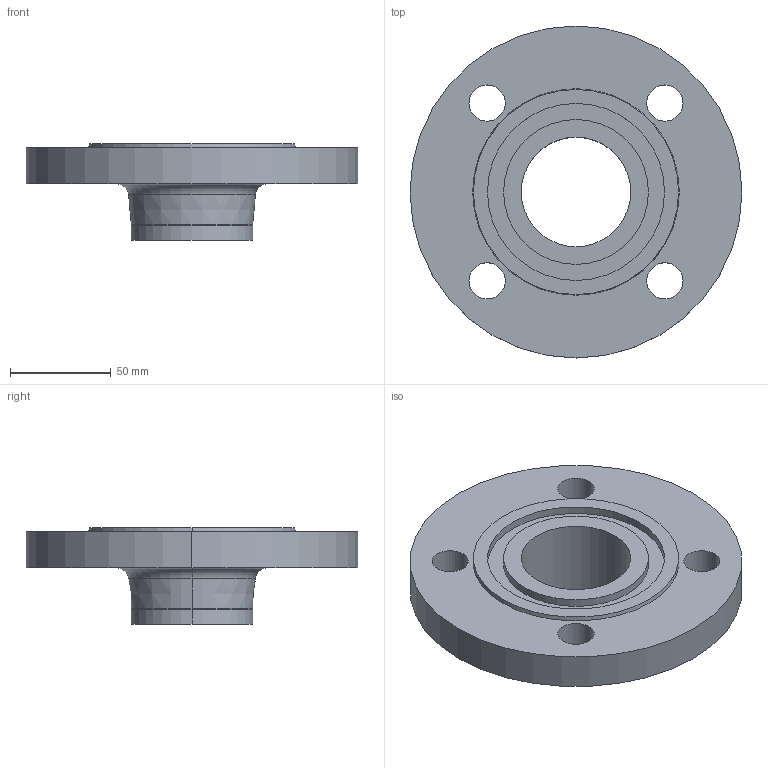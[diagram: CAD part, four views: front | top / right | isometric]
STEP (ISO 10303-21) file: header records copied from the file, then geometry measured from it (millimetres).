
FILE_DESCRIPTION (( 'STEP AP214' ), '1' );
FILE_NAME ('PN40 DN50 Type 11 - Type D Face.STEP', '2018-12-30T04:36:31', ( '' ), ( '' ), 'SwSTEP 2.0', 'SolidWorks 2019', '' );
FILE_SCHEMA (( 'AUTOMOTIVE_DESIGN' ));
Length unit declared in the file: millimetre
Products named in the file (1): PN40 DN50 Type 11 - Type D Face
Bounding box: 165 x 165 x 48 mm (x, y, z)
Volume: 347941.1 mm3; surface area: 64905.7 mm2
Topology: 1 solids, 1 shells, 32 faces, 72 edges, 46 vertices
Faces by surface type: cylinder 18, plane 6, torus 4, cone 4
Entity records: 972 total; most frequent: DIRECTION 188, CARTESIAN_POINT 151, ORIENTED_EDGE 144, AXIS2_PLACEMENT_3D 83, EDGE_CURVE 72, CIRCLE 50, VERTEX_POINT 46, EDGE_LOOP 46
